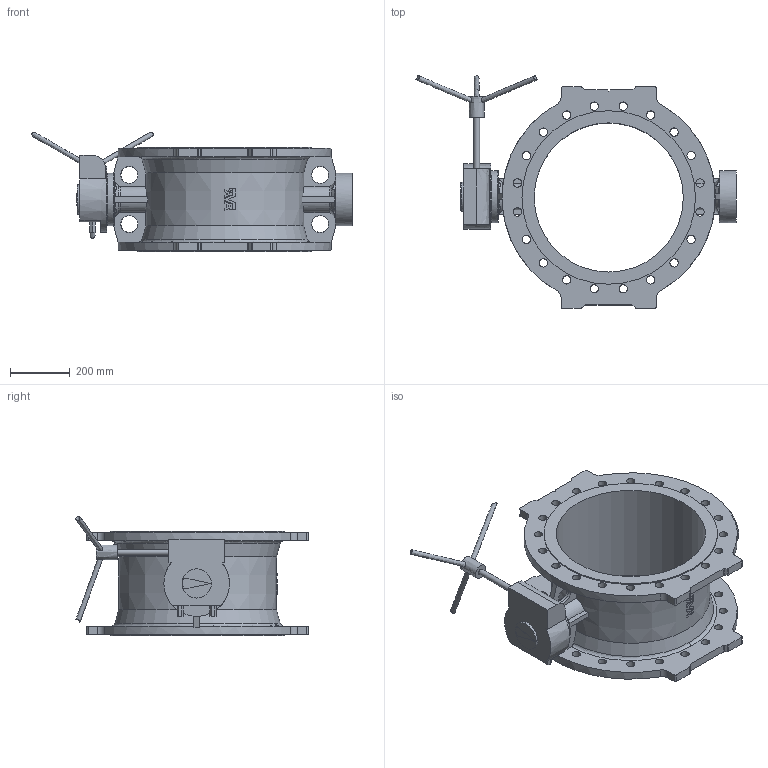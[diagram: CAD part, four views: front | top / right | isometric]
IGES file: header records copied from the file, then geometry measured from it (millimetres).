
Start section: SolidWorks IGES file using analytic representation for surfaces
Global section: file name: \\avksan2\techshare\PBM outline export from Enovia\O_756_1_DN500_1XX00_AA0_igs.igs; native system: SolidWorks 2012; preprocessor: SolidWorks 2012; author: pbm; date: 160304.125219; units: millimetre
Bounding box: 1073.52 x 779.16 x 400.19 mm (x, y, z)
Surface area: 2423139.1 mm2 (no closed solid volume)
Topology: 0 solids, 0 shells, 444 faces, 2502 edges, 2383 vertices
Faces by surface type: bspline 266, revolution 178
